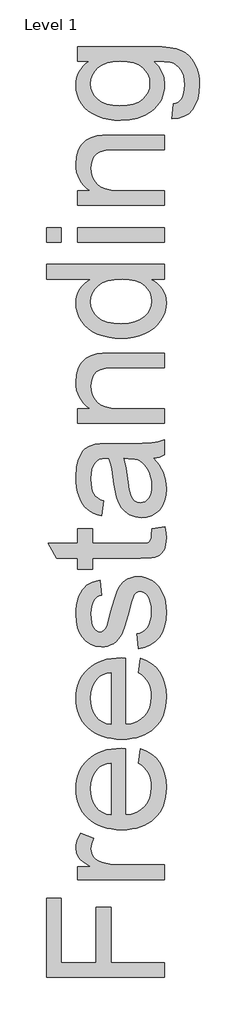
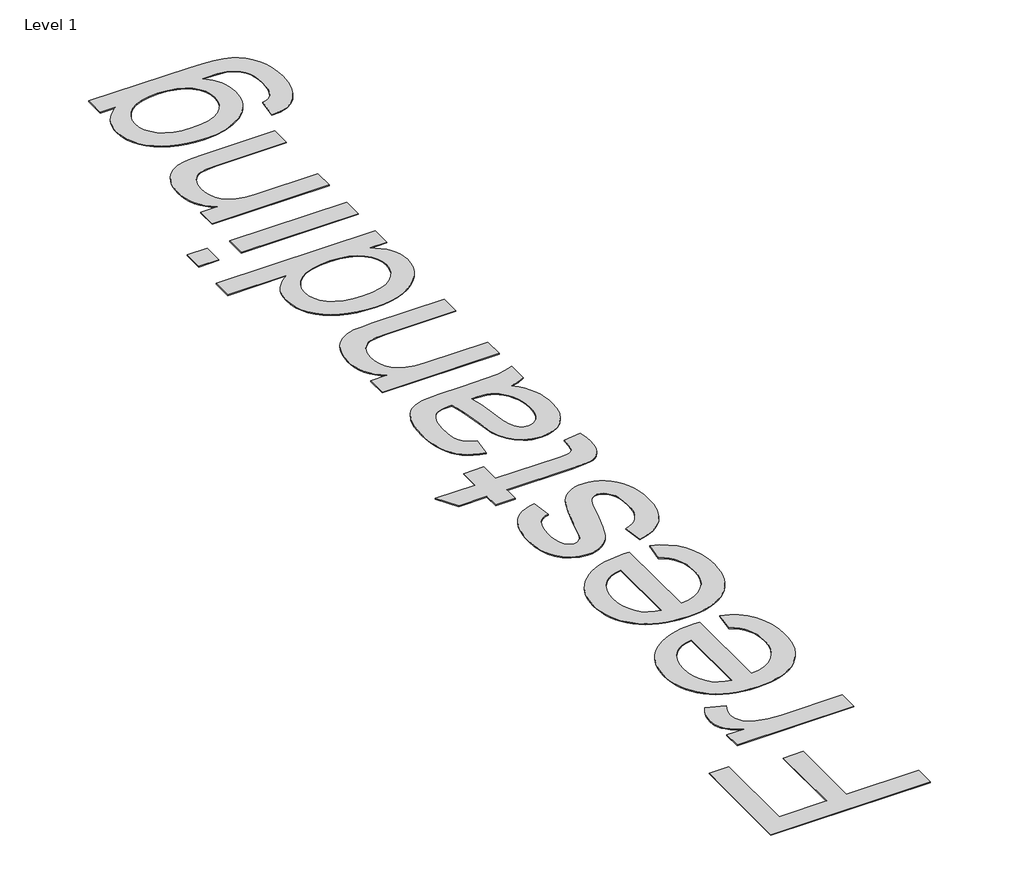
# One storey, part 23 of 47: 1 proxy.
"""IFC4 building model written with IfcOpenShell, lengths in millimetres."""

from ifc_helpers import new_model, si_unit, origin, origin_with_axes, place, context, project, spatial, polyline, outline, extrude, element, save

model = new_model("IFC4")

# Units and contexts
model_context = context("Model", 3, world=origin())
ifc_project = project(units=[si_unit("LENGTHUNIT", "METRE", prefix="MILLI")], contexts=[model_context])

# Site, building, storey
site = spatial("IfcSite", under=ifc_project)
building = spatial("IfcBuilding", under=site)
storey = spatial("IfcBuildingStorey", under=building, Name="Level 1", Elevation=0.0)

# Proxy
placement = place(None, origin())
element("IfcBuildingElementProxy", 1, Name="1000mm Arial", ObjectType="1000mm Arial", at=placement, inside=storey, context=model_context, shape_type="SweptSolid", body=[
    extrude(outline(polyline([(-21746.6295688, 65405.6130925), (-22751.1926703, 65405.6130925), (-22751.1926703, 66080.5539263), (-22625.6222826, 66080.5539263), (-22625.6222826, 65531.1834802), (-22327.3926119, 65531.1834802), (-22327.3926119, 66002.072434), (-22201.8222242, 66002.072434), (-22201.8222242, 65531.1834802), (-21746.6295688, 65531.1834802), (-21746.6295688, 65405.6130925)])), origin_with_axes(), (0.0, 0.0, 1.0), 5.0),
    extrude(outline(polyline([(-21746.6295688, 66237.516911), (-22484.3555965, 66237.516911), (-22484.3555965, 66347.3910002), (-22375.2172713, 66347.3910002), (-22438.4929744, 66387.980647), (-22460.3819531, 66407.0798539), (-22475.7716833, 66425.3819832), (-22493.981842, 66462.9059467), (-22500.051895, 66503.8634755), (-22497.6300052, 66535.0108177), (-22490.3643357, 66566.4034146), (-22478.2548867, 66598.0412662), (-22461.3016581, 66629.9243725), (-22348.7297676, 66587.985825), (-22368.0435724, 66543.8399856), (-22372.8720235, 66521.7670659), (-22374.4815073, 66499.6941462), (-22372.9333372, 66480.4493193), (-22368.288827, 66462.2008395), (-22360.5479767, 66444.9487068), (-22349.7107863, 66428.6929211), (-22336.1298093, 66414.0466192), (-22320.1575993, 66401.6229376), (-22281.0394805, 66383.4434357), (-22210.8966467, 66368.1763329), (-22134.3771917, 66363.0872986), (-21746.6295688, 66363.0872986), (-21746.6295688, 66237.516911)])), origin_with_axes(), (0.0, 0.0, 1.0), 5.0),
    extrude(outline(polyline([(-21966.3777473, 67224.912186), (-21950.6814488, 67348.0300271), (-21901.3699331, 67329.1530822), (-21857.9138724, 67303.6695898), (-21820.3132668, 67271.5795499), (-21788.5681163, 67232.8829626), (-21763.3528712, 67187.9783665), (-21745.3419818, 67137.2643007), (-21734.5354482, 67080.7407649), (-21730.9332704, 67018.4077594), (-21732.4871886, 66978.3890961), (-21737.1489432, 66940.4934185), (-21744.9185343, 66904.7207266), (-21755.7959619, 66871.0710203), (-21769.7812259, 66839.5442997), (-21786.8743263, 66810.1405649), (-21807.0752631, 66782.8598157), (-21830.3840364, 66757.7020521), (-21856.4979099, 66735.1117984), (-21885.1141474, 66715.5335784), (-21916.2327489, 66698.9673923), (-21949.8537143, 66685.4132401), (-21985.9770438, 66674.8711217), (-22024.6027372, 66667.3410371), (-22065.7307947, 66662.8229863), (-22109.3612161, 66661.3169694), (-22154.4765778, 66662.8383147), (-22196.993773, 66667.4023507), (-22236.9128016, 66675.0090774), (-22274.2336636, 66685.6584947), (-22308.956359, 66699.3506028), (-22341.0808878, 66716.0854014), (-22370.60725, 66735.8628908), (-22397.5354456, 66758.6830708), (-22421.5627384, 66783.9289727), (-22442.3863922, 66810.9836278), (-22460.0064069, 66839.847036), (-22474.4227826, 66870.5191973), (-22485.6355193, 66903.0001118), (-22493.6446169, 66937.2897794), (-22498.4500754, 66973.3882002), (-22500.051895, 67011.2953741), (-22498.4539075, 67047.9628624), (-22493.6599453, 67082.9174001), (-22485.6700082, 67116.1589872), (-22474.4840963, 67147.6876239), (-22460.1022095, 67177.5033099), (-22442.524348, 67205.6060455), (-22421.7505115, 67231.9958305), (-22397.7807003, 67256.6726649), (-22370.9138183, 67279.0042517), (-22341.4487698, 67298.3582935), (-22309.3855546, 67314.7347904), (-22274.7241729, 67328.1337425), (-22237.4646246, 67338.5551496), (-22197.6069097, 67345.9990119), (-22110.0969801, 67351.9541017), (-22076.2518365, 67351.2183377), (-22076.2518365, 66786.8873571), (-22026.1432431, 66794.1606907), (-21982.2579867, 66808.6230516), (-21944.5960675, 66830.2744399), (-21913.1574853, 66859.1148555), (-21888.3714359, 66893.5501431), (-21870.6671149, 66931.9861473), (-21860.0445223, 66974.4228683), (-21856.5036581, 67020.860306), (-21858.1437986, 67055.5944977), (-21863.0642203, 67087.6922018), (-21871.2649231, 67117.1534183), (-21882.745907, 67143.9781471), (-21897.8137404, 67168.1663883), (-21916.7749916, 67189.7181418), (-21939.6296606, 67208.6334077), (-21966.3777473, 67224.912186)]), holes=[polyline([(-22201.8222242, 66786.8873571), (-22201.8222242, 67226.383714), (-22237.3534936, 67219.9304507), (-22268.1636107, 67209.3998285), (-22294.2525755, 67194.7918477), (-22315.620388, 67176.106508), (-22341.3721277, 67141.8628256), (-22359.7662275, 67102.8979909), (-22370.8026873, 67059.212004), (-22374.4815073, 67010.8048648), (-22371.5461155, 66966.6513612), (-22362.7399403, 66926.1613491), (-22348.0629815, 66889.3348285), (-22327.5152392, 66856.1717995), (-22302.0470753, 66828.3430594), (-22272.6088514, 66807.5194056), (-22239.2005677, 66793.7008382), (-22201.8222242, 66786.8873571)])]), origin_with_axes(), (0.0, 0.0, 1.0), 5.0),
    extrude(outline(polyline([(-21966.3777473, 67994.0308106), (-21950.6814488, 68117.1486516), (-21901.3699331, 68098.2717068), (-21857.9138724, 68072.7882144), (-21820.3132668, 68040.6981745), (-21788.5681163, 68002.0015872), (-21763.3528712, 67957.0969911), (-21745.3419818, 67906.3829252), (-21734.5354482, 67849.8593895), (-21730.9332704, 67787.526384), (-21732.4871886, 67747.5077207), (-21737.1489432, 67709.6120431), (-21744.9185343, 67673.8393511), (-21755.7959619, 67640.1896449), (-21769.7812259, 67608.6629243), (-21786.8743263, 67579.2591894), (-21807.0752631, 67551.9784402), (-21830.3840364, 67526.8206767), (-21856.4979099, 67504.2304229), (-21885.1141474, 67484.652203), (-21916.2327489, 67468.0860169), (-21949.8537143, 67454.5318647), (-21985.9770438, 67443.9897462), (-22024.6027372, 67436.4596616), (-22065.7307947, 67431.9416109), (-22109.3612161, 67430.435594), (-22154.4765778, 67431.9569393), (-22196.993773, 67436.5209753), (-22236.9128016, 67444.127702), (-22274.2336636, 67454.7771193), (-22308.956359, 67468.4692273), (-22341.0808878, 67485.204026), (-22370.60725, 67504.9815154), (-22397.5354456, 67527.8016954), (-22421.5627384, 67553.0475973), (-22442.3863922, 67580.1022523), (-22460.0064069, 67608.9656606), (-22474.4227826, 67639.6378219), (-22485.6355193, 67672.1187364), (-22493.6446169, 67706.408404), (-22498.4500754, 67742.5068248), (-22500.051895, 67780.4139987), (-22498.4539075, 67817.081487), (-22493.6599453, 67852.0360247), (-22485.6700082, 67885.2776118), (-22474.4840963, 67916.8062484), (-22460.1022095, 67946.6219345), (-22442.524348, 67974.7246701), (-22421.7505115, 68001.114455), (-22397.7807003, 68025.7912895), (-22370.9138183, 68048.1228762), (-22341.4487698, 68067.4769181), (-22309.3855546, 68083.853415), (-22274.7241729, 68097.2523671), (-22237.4646246, 68107.6737742), (-22197.6069097, 68115.1176365), (-22110.0969801, 68121.0727263), (-22076.2518365, 68120.3369623), (-22076.2518365, 67556.0059817), (-22026.1432431, 67563.2793153), (-21982.2579867, 67577.7416762), (-21944.5960675, 67599.3930645), (-21913.1574853, 67628.2334801), (-21888.3714359, 67662.6687676), (-21870.6671149, 67701.1047719), (-21860.0445223, 67743.5414929), (-21856.5036581, 67789.9789306), (-21858.1437986, 67824.7131223), (-21863.0642203, 67856.8108264), (-21871.2649231, 67886.2720428), (-21882.745907, 67913.0967717), (-21897.8137404, 67937.2850128), (-21916.7749916, 67958.8367664), (-21939.6296606, 67977.7520323), (-21966.3777473, 67994.0308106)]), holes=[polyline([(-22201.8222242, 67556.0059817), (-22201.8222242, 67995.5023386), (-22237.3534936, 67989.0490752), (-22268.1636107, 67978.5184531), (-22294.2525755, 67963.9104722), (-22315.620388, 67945.2251326), (-22341.3721277, 67910.9814502), (-22359.7662275, 67872.0166155), (-22370.8026873, 67828.3306286), (-22374.4815073, 67779.9234894), (-22371.5461155, 67735.7699858), (-22362.7399403, 67695.2799737), (-22348.0629815, 67658.4534531), (-22327.5152392, 67625.2904241), (-22302.0470753, 67597.461684), (-22272.6088514, 67576.6380302), (-22239.2005677, 67562.8194628), (-22201.8222242, 67556.0059817)])]), origin_with_axes(), (0.0, 0.0, 1.0), 5.0),
    extrude(outline(polyline([(-21966.3777473, 68199.5542186), (-21982.0740457, 68325.1246062), (-21953.4405638, 68332.7121724), (-21928.3632744, 68344.9289203), (-21906.8421777, 68361.77485), (-21888.8772736, 68383.2499615), (-21874.7138168, 68409.4155684), (-21864.597062, 68440.3329844), (-21858.527009, 68476.0022095), (-21856.5036581, 68516.4232437), (-21858.3583965, 68556.7982927), (-21863.9226116, 68591.5937981), (-21873.1963036, 68620.8097599), (-21886.1794723, 68644.4461781), (-21901.661173, 68662.6869937), (-21918.4304606, 68675.7161477), (-21936.4873352, 68683.53364), (-21955.8317968, 68686.1394708), (-21972.7850254, 68683.5183116), (-21987.8375303, 68675.654834), (-22000.9893117, 68662.5490379), (-22012.2403693, 68644.2009234), (-22028.1819225, 68597.1733417), (-22048.0475502, 68514.9517158), (-22081.1875866, 68400.3564743), (-22109.4838434, 68325.8603702), (-22123.6702928, 68300.2849074), (-22140.3552742, 68278.005054), (-22159.5387874, 68259.0208102), (-22181.2208325, 68243.332176), (-22204.7499517, 68231.0464502), (-22229.4746875, 68222.2709318), (-22255.3950397, 68217.0056207), (-22282.5110085, 68215.250517), (-22331.1634023, 68220.8913743), (-22376.0756626, 68237.8139461), (-22415.4696929, 68264.4853907), (-22447.567397, 68299.3728666), (-22467.7702499, 68334.0457446), (-22484.7234785, 68379.2032595), (-22496.2197908, 68431.411846), (-22500.051895, 68487.2379388), (-22498.5113891, 68529.4370693), (-22493.8898715, 68568.9690554), (-22486.1873423, 68605.833897), (-22475.4038013, 68640.0315941), (-22461.9914369, 68670.7497407), (-22446.4024373, 68697.1759307), (-22428.6368026, 68719.3101641), (-22408.6945328, 68737.1524408), (-22385.8781849, 68751.622466), (-22359.490316, 68763.6399445), (-22329.530926, 68773.2048764), (-22296.000015, 68780.3172616), (-22280.3037165, 68654.7468739), (-22301.2806544, 68648.7611273), (-22319.8203742, 68638.8972913), (-22335.9228756, 68625.1553659), (-22349.5881589, 68607.5353512), (-22360.4789988, 68585.960605), (-22368.2581702, 68560.3544853), (-22372.925673, 68530.7169921), (-22374.4815073, 68497.0481253), (-22372.9946509, 68457.9913202), (-22368.5340817, 68424.9432543), (-22361.0997997, 68397.9039276), (-22350.6918049, 68376.8733402), (-22338.3064444, 68361.1003997), (-22324.9400652, 68349.8340136), (-22310.5926674, 68343.0741819), (-22295.264251, 68340.8209047), (-22275.9504462, 68344.5610383), (-22258.7213061, 68355.7814392), (-22243.331576, 68374.9726166), (-22231.0075291, 68402.6250799), (-22204.2747708, 68510.7823865), (-22171.4719596, 68621.7294649), (-22145.1683969, 68695.0912661), (-22132.3385124, 68720.9043194), (-22116.902797, 68743.7743168), (-22098.8612508, 68763.7012582), (-22078.2138738, 68780.6851436), (-22054.9300092, 68794.2584564), (-22028.9790001, 68803.9536798), (-22000.3608466, 68809.7708139), (-21969.0755486, 68811.7098585), (-21937.6522948, 68809.4335887), (-21907.1487461, 68802.6047792), (-21877.5649023, 68791.2234299), (-21848.9007635, 68775.289541), (-21822.2982967, 68755.0636955), (-21798.899469, 68730.8064764), (-21778.7042803, 68702.5178838), (-21761.7127306, 68670.1979177), (-21748.2467168, 68634.727962), (-21738.6281354, 68596.9894007), (-21732.8569866, 68556.9822337), (-21730.9332704, 68514.7064611), (-21734.6427472, 68447.1234729), (-21745.7711775, 68388.0937411), (-21764.3185614, 68337.6172657), (-21790.2848989, 68295.6940466), (-21823.5475627, 68261.4503643), (-21863.9839253, 68234.0124988), (-21911.5939868, 68213.3804502), (-21966.3777473, 68199.5542186)])), origin_with_axes(), (0.0, 0.0, 1.0), 5.0),
    extrude(outline(polyline([(-21851.3533101, 69219.8136185), (-21742.9507489, 69235.509917), (-21733.93764, 69185.784534), (-21730.9332704, 69141.5773809), (-21736.144932, 69081.3060473), (-21742.659509, 69056.9185367), (-21751.7799168, 69036.3631303), (-21775.8761874, 69004.6026513), (-21790.361541, 68992.8610843), (-21806.4717067, 68983.8786323), (-21828.0694455, 68977.2260995), (-21859.0175184, 68972.4742904), (-21948.9646662, 68968.6728431), (-22358.7852088, 68968.6728431), (-22358.7852088, 68874.4950524), (-22484.3555965, 68874.4950524), (-22484.3555965, 68968.6728431), (-22663.6367555, 68968.6728431), (-22737.4584092, 69094.2432308), (-22484.3555965, 69094.2432308), (-22484.3555965, 69219.8136185), (-22358.7852088, 69219.8136185), (-22358.7852088, 69094.2432308), (-21952.6434861, 69094.2432308), (-21911.3180753, 69095.8986998), (-21887.896255, 69100.8651067), (-21874.9284146, 69109.5409905), (-21864.9649439, 69122.3248898), (-21858.6189795, 69140.4430781), (-21856.5036581, 69165.1218286), (-21851.3533101, 69219.8136185)])), origin_with_axes(), (0.0, 0.0, 1.0), 5.0),
    extrude(outline(polyline([(-21840.8073596, 69816.27296), (-21812.8636564, 69786.497511), (-21789.3651939, 69756.277538), (-21770.3119723, 69725.6130408), (-21755.7039914, 69694.5040196), (-21744.8668009, 69662.5979208), (-21737.1259506, 69629.5421906), (-21732.4814404, 69595.3368293), (-21730.9332704, 69559.9818367), (-21734.6580756, 69504.0714377), (-21745.8324912, 69455.0434976), (-21764.4565172, 69412.8980165), (-21790.5301536, 69377.6349944), (-21822.3979314, 69349.7909259), (-21858.4043817, 69329.9023056), (-21898.5495044, 69317.9691334), (-21942.8332996, 69313.9914093), (-21994.8886019, 69320.0001485), (-22019.1228283, 69327.5110726), (-22042.1614383, 69338.0263663), (-22082.6284578, 69365.8321138), (-22114.2663093, 69401.1794421), (-22138.178639, 69442.7194508), (-22155.4690928, 69489.103239), (-22165.0953383, 69534.2914107), (-22174.3537019, 69597.7510549), (-22194.2193296, 69726.1418712), (-22205.4397305, 69775.7139701), (-22217.5185227, 69815.537196), (-22245.4775543, 69816.27296), (-22275.9197894, 69814.1116533), (-22301.5182449, 69807.6277331), (-22322.2729208, 69796.8211995), (-22338.1838171, 69781.6920525), (-22354.0640565, 69755.541774), (-22365.4070847, 69723.6893246), (-22372.2129016, 69686.1347042), (-22374.4815073, 69642.877913), (-22372.9716582, 69602.6561482), (-22368.4421112, 69568.0752406), (-22360.8928661, 69539.1351903), (-22350.3239229, 69515.8359973), (-22335.9075472, 69496.6908051), (-22316.8160045, 69480.2127574), (-22293.0492948, 69466.4018542), (-22264.607418, 69455.2580954), (-22280.3037165, 69329.6877077), (-22316.4787794, 69339.2449754), (-22348.9750223, 69351.484716), (-22377.7924452, 69366.4069294), (-22402.9310482, 69384.0116157), (-22424.896669, 69405.0575315), (-22444.1951454, 69430.3034334), (-22460.8264772, 69459.7493215), (-22474.7906646, 69493.3951956), (-22485.8424529, 69530.5589413), (-22493.7365874, 69570.5584441), (-22498.4730681, 69613.3937039), (-22500.051895, 69659.0647208), (-22494.4723514, 69743.9534911), (-22487.4979219, 69779.7989931), (-22477.7337206, 69811.2452394), (-22452.5644607, 69861.9822979), (-22437.8415167, 69881.5336931), (-22421.69303, 69897.206999), (-22383.525273, 69920.5675057), (-22336.4670344, 69935.7119811), (-22293.056959, 69940.3105061), (-22226.5929452, 69941.8433477), (-22070.3657246, 69941.8433477), (-21934.2800432, 69943.437503), (-21852.2117014, 69948.219969), (-21798.2863323, 69957.6622735), (-21746.6295688, 69973.2359446), (-21746.6295688, 69847.665557), (-21790.2848989, 69827.5546746), (-21840.8073596, 69816.27296)]), holes=[polyline([(-22091.948135, 69816.27296), (-22071.0401749, 69731.9053558), (-22053.4431528, 69613.692608), (-22043.8169073, 69548.546838), (-22033.0870157, 69505.6579288), (-22019.1688136, 69477.545613), (-21999.9776362, 69456.7296234), (-21976.9850115, 69443.8537536), (-21951.6624675, 69439.561797), (-21932.1493933, 69441.8993805), (-21914.322445, 69448.912131), (-21898.1816224, 69460.6000486), (-21883.7269257, 69476.9631331), (-21871.8167461, 69497.8481006), (-21863.309475, 69523.1016667), (-21858.2051123, 69552.7238315), (-21856.5036581, 69586.714595), (-21858.3813891, 69621.4181299), (-21864.0145821, 69654.1596275), (-21873.4032372, 69684.9390878), (-21886.5473543, 69713.7565107), (-21902.3586159, 69739.753505), (-21919.7487044, 69762.0716794), (-21938.7176198, 69780.7110338), (-21959.265362, 69795.6715683), (-21977.6594618, 69804.3627804), (-21999.9776362, 69810.5707891), (-22056.3862088, 69815.537196), (-22091.948135, 69816.27296)])]), origin_with_axes(), (0.0, 0.0, 1.0), 5.0),
    extrude(outline(polyline([(-21746.6295688, 70114.5026308), (-22484.3555965, 70114.5026308), (-22484.3555965, 70240.0730185), (-22381.3486378, 70240.0730185), (-22409.1697137, 70260.7893733), (-22433.2813128, 70283.6976917), (-22453.6834351, 70308.7979737), (-22470.3760807, 70336.0902192), (-22483.3592494, 70365.5744283), (-22492.6329414, 70397.2506009), (-22498.1971566, 70431.1187371), (-22500.051895, 70467.1788368), (-22494.0738125, 70529.0749825), (-22486.6012095, 70558.0686823), (-22476.1395653, 70585.7594666), (-22463.248367, 70611.097339), (-22448.487102, 70633.032303), (-22431.8557701, 70651.5643585), (-22413.3543714, 70666.6935055), (-22370.8333441, 70689.5328461), (-22321.0159906, 70704.3400964), (-22273.3752723, 70709.3065033), (-22199.6149322, 70710.9619723), (-21746.6295688, 70710.9619723), (-21746.6295688, 70585.3915846), (-22182.6923604, 70585.3915846), (-22247.6235326, 70581.7740783), (-22293.792723, 70570.9215595), (-22311.2594536, 70562.2993252), (-22326.8714457, 70550.9026476), (-22340.6286995, 70536.7315265), (-22352.5312149, 70519.7859621), (-22368.9939342, 70479.9014225), (-22374.4815073, 70433.5789479), (-22371.4004956, 70395.449512), (-22362.1574604, 70360.0332057), (-22346.7524019, 70327.3300292), (-22325.1853199, 70297.3399824), (-22295.0036679, 70272.2856857), (-22253.7548992, 70254.3897595), (-22201.4390138, 70243.6522037), (-22138.0560117, 70240.0730185), (-21746.6295688, 70240.0730185), (-21746.6295688, 70114.5026308)])), origin_with_axes(), (0.0, 0.0, 1.0), 5.0),
    extrude(outline(polyline([(-21746.6295688, 71338.8139107), (-21865.0875713, 71338.8139107), (-21833.645157, 71321.0214513), (-21806.3950646, 71301.243962), (-21783.3372942, 71279.4814427), (-21764.4718456, 71255.7338935), (-21749.7987189, 71230.0013144), (-21739.3179142, 71202.2837053), (-21733.0294313, 71172.5810663), (-21730.9332704, 71140.8933973), (-21733.9682968, 71099.4453592), (-21743.0733762, 71059.7141037), (-21758.2485085, 71021.6996309), (-21779.4936937, 70985.4019407), (-21806.1728026, 70951.955336), (-21837.6497058, 70922.4941195), (-21873.9244034, 70897.0182914), (-21914.9968953, 70875.5278515), (-21960.0854323, 70858.467324), (-22008.4082652, 70846.2812329), (-22059.965394, 70838.9695782), (-22114.7568187, 70836.53236), (-22168.5442321, 70838.777973), (-22219.7871283, 70845.514812), (-22268.4855074, 70856.7428771), (-22314.6393694, 70872.4621682), (-22356.8998136, 70892.6650211), (-22393.9179393, 70917.3437716), (-22425.6937467, 70946.4984197), (-22452.2272356, 70980.1289654), (-22473.1505241, 71017.0474565), (-22488.0957301, 71056.0659406), (-22497.0628537, 71097.1844178), (-22500.051895, 71140.402888), (-22497.9135809, 71172.0100828), (-22491.4986386, 71201.8391812), (-22480.8070681, 71229.8901833), (-22465.8388694, 71256.1630892), (-22447.4524339, 71280.3666588), (-22426.5061528, 71302.2096522), (-22403.0000261, 71321.6920695), (-22376.9340539, 71338.8139107), (-22751.1926703, 71338.8139107), (-22751.1926703, 71464.3842984), (-21746.6295688, 71464.3842984), (-21746.6295688, 71338.8139107)]), holes=[polyline([(-22115.247328, 70962.1027477), (-22054.3551936, 70965.6436119), (-22001.663762, 70976.2662045), (-21957.1730332, 70993.9705255), (-21920.8830072, 71018.7565749), (-21892.717042, 71048.3557471), (-21872.5984953, 71080.4994365), (-21860.5273674, 71115.1876429), (-21856.5036581, 71152.4203665), (-21860.3434264, 71189.8293669), (-21871.8627314, 71224.3106397), (-21891.061573, 71255.864185), (-21917.9399513, 71284.4900028), (-21952.712464, 71308.2567125), (-21995.5937091, 71325.2329337), (-22046.5836864, 71335.4186665), (-22105.6823961, 71338.8139107), (-22170.4756125, 71335.3573528), (-22226.0411222, 71324.9876791), (-22272.3789252, 71307.7048895), (-22309.4890215, 71283.5089841), (-22337.923234, 71254.2547013), (-22358.2333858, 71221.7967794), (-22370.4194769, 71186.1352185), (-22374.4815073, 71147.2700186), (-22370.5804253, 71109.301531), (-22358.8771793, 71074.6133245), (-22339.3717694, 71043.2053992), (-22312.0641954, 71015.077755), (-22276.3566493, 70991.9011893), (-22231.6513226, 70975.3464995), (-22177.9482156, 70965.4136856), (-22115.247328, 70962.1027477)])]), origin_with_axes(), (0.0, 0.0, 1.0), 5.0),
    extrude(outline(polyline([(-21746.6295688, 71652.73988), (-22484.3555965, 71652.73988), (-22484.3555965, 71778.3102676), (-21746.6295688, 71778.3102676), (-21746.6295688, 71652.73988)])), origin_with_axes(), (0.0, 0.0, 1.0), 5.0),
    extrude(outline(polyline([(-22625.6222826, 71652.73988), (-22751.1926703, 71652.73988), (-22751.1926703, 71778.3102676), (-22625.6222826, 71778.3102676), (-22625.6222826, 71652.73988)])), origin_with_axes(), (0.0, 0.0, 1.0), 5.0),
    extrude(outline(polyline([(-21746.6295688, 71966.6658492), (-22484.3555965, 71966.6658492), (-22484.3555965, 72092.2362369), (-22381.3486378, 72092.2362369), (-22409.1697137, 72112.9525917), (-22433.2813128, 72135.8609101), (-22453.6834351, 72160.9611921), (-22470.3760807, 72188.2534376), (-22483.3592494, 72217.7376467), (-22492.6329414, 72249.4138193), (-22498.1971566, 72283.2819555), (-22500.051895, 72319.3420552), (-22494.0738125, 72381.2382009), (-22486.6012095, 72410.2319006), (-22476.1395653, 72437.922685), (-22463.248367, 72463.2605574), (-22448.487102, 72485.1955214), (-22431.8557701, 72503.7275769), (-22413.3543714, 72518.8567239), (-22370.8333441, 72541.6960645), (-22321.0159906, 72556.5033148), (-22273.3752723, 72561.4697217), (-22199.6149322, 72563.1251907), (-21746.6295688, 72563.1251907), (-21746.6295688, 72437.554803), (-22182.6923604, 72437.554803), (-22247.6235326, 72433.9372967), (-22293.792723, 72423.0847779), (-22311.2594536, 72414.4625436), (-22326.8714457, 72403.065866), (-22340.6286995, 72388.8947449), (-22352.5312149, 72371.9491805), (-22368.9939342, 72332.0646409), (-22374.4815073, 72285.7421663), (-22371.4004956, 72247.6127304), (-22362.1574604, 72212.1964241), (-22346.7524019, 72179.4932476), (-22325.1853199, 72149.5032008), (-22295.0036679, 72124.4489041), (-22253.7548992, 72106.5529778), (-22201.4390138, 72095.8154221), (-22138.0560117, 72092.2362369), (-21746.6295688, 72092.2362369), (-21746.6295688, 71966.6658492)])), origin_with_axes(), (0.0, 0.0, 1.0), 5.0),
    extrude(outline(polyline([(-21683.844375, 72704.3918768), (-21668.1480765, 72829.9622645), (-21646.9948618, 72835.2658966), (-21628.9073304, 72843.819153), (-21613.8854822, 72855.6220337), (-21601.9293174, 72870.6745387), (-21589.6972411, 72895.0313924), (-21580.9600437, 72923.465605), (-21575.7177252, 72955.9771763), (-21573.9702858, 72992.5661064), (-21575.9476515, 73031.7761957), (-21581.8797487, 73066.2651328), (-21591.7665773, 73096.0329175), (-21605.6081373, 73121.07955), (-21623.0212185, 73141.9261964), (-21643.6226102, 73159.0940229), (-21667.4123125, 73172.5830294), (-21694.3903255, 73182.3932159), (-21748.4076651, 73189.1990328), (-21840.8073596, 73190.9771291), (-21799.6045761, 73149.1918658), (-21770.1740165, 73102.5628229), (-21759.8733207, 73077.4318842), (-21752.5156808, 73051.0900005), (-21746.6295688, 72994.7733984), (-21748.3425194, 72959.3206871), (-21753.481371, 72925.9258158), (-21762.0461237, 72894.5887844), (-21774.0367775, 72865.3095929), (-21789.4533323, 72838.0882413), (-21808.2957883, 72812.9247296), (-21830.5641453, 72789.8190578), (-21856.2584034, 72768.771226), (-21913.8012788, 72733.7381302), (-21976.8010705, 72708.7144903), (-22045.2577784, 72693.7003063), (-22119.1714026, 72688.6955784), (-22170.8818156, 72690.9411914), (-22220.5535491, 72697.6780304), (-22268.1866033, 72708.9060955), (-22313.7809781, 72724.6253866), (-22355.8191602, 72744.5983132), (-22392.7836365, 72768.587285), (-22424.674407, 72796.5923019), (-22451.4914716, 72828.6133639), (-22472.7366568, 72864.136969), (-22487.9117891, 72902.6496154), (-22497.0168685, 72944.151303), (-22500.051895, 72988.6420318), (-22498.3351123, 73018.6818959), (-22493.1847644, 73047.3651953), (-22484.6008512, 73074.6919297), (-22472.5833726, 73100.6620993), (-22457.1323288, 73125.275704), (-22438.2477198, 73148.5327439), (-22415.9295454, 73170.433219), (-22390.1778057, 73190.9771291), (-22484.3555965, 73190.9771291), (-22484.3555965, 73316.5475168), (-21847.4292355, 73316.5475168), (-21767.6218352, 73314.4015385), (-21700.3684079, 73307.9636036), (-21645.6689538, 73297.2337121), (-21603.5234727, 73282.2118639), (-21569.5327092, 73262.5378414), (-21539.2974077, 73237.8514267), (-21512.8175683, 73208.1526198), (-21490.0931909, 73173.4414207), (-21471.8523753, 73134.070383), (-21458.8232213, 73090.3920603), (-21451.0057289, 73042.4064525), (-21448.3998981, 72990.1135598), (-21452.0710538, 72928.5929603), (-21463.084521, 72873.2803695), (-21481.4402998, 72824.1757873), (-21507.13839, 72781.2792138), (-21540.2094485, 72746.6293284), (-21580.6841322, 72722.2648104), (-21628.562441, 72708.1856599), (-21683.844375, 72704.3918768)]), holes=[polyline([(-22127.7553158, 72814.2659661), (-22065.6675649, 72817.6152251), (-22012.5775945, 72827.6630021), (-21968.4854045, 72844.409297), (-21933.390995, 72867.85411), (-21906.6199157, 72896.3573004), (-21887.4977162, 72928.2787277), (-21876.0243964, 72963.6183919), (-21872.1999565, 73002.3762929), (-21876.0014038, 73040.7509835), (-21887.4057457, 73075.9220351), (-21906.4129821, 73107.8894477), (-21933.0231131, 73136.6532212), (-21967.7726332, 73160.4199309), (-22011.198037, 73177.3961521), (-22063.2993246, 73187.5818849), (-22124.0764959, 73190.9771291), (-22182.3168142, 73187.4822502), (-22232.9389096, 73176.9976133), (-22275.942782, 73159.5232185), (-22311.3284314, 73135.0590659), (-22338.9579021, 73105.6744915), (-22358.6932383, 73073.4388317), (-22370.53444, 73038.3520864), (-22374.4815073, 73000.4142556), (-22370.5957537, 72963.1125541), (-22358.938493, 72928.7079234), (-22339.5097251, 72897.2003633), (-22312.3094501, 72868.589874), (-22277.4602952, 72844.8231643), (-22235.0848879, 72827.846943), (-22185.1832281, 72817.6612103), (-22127.7553158, 72814.2659661)])]), origin_with_axes(), (0.0, 0.0, 1.0), 5.0),
])

save(model, "model.ifc")
